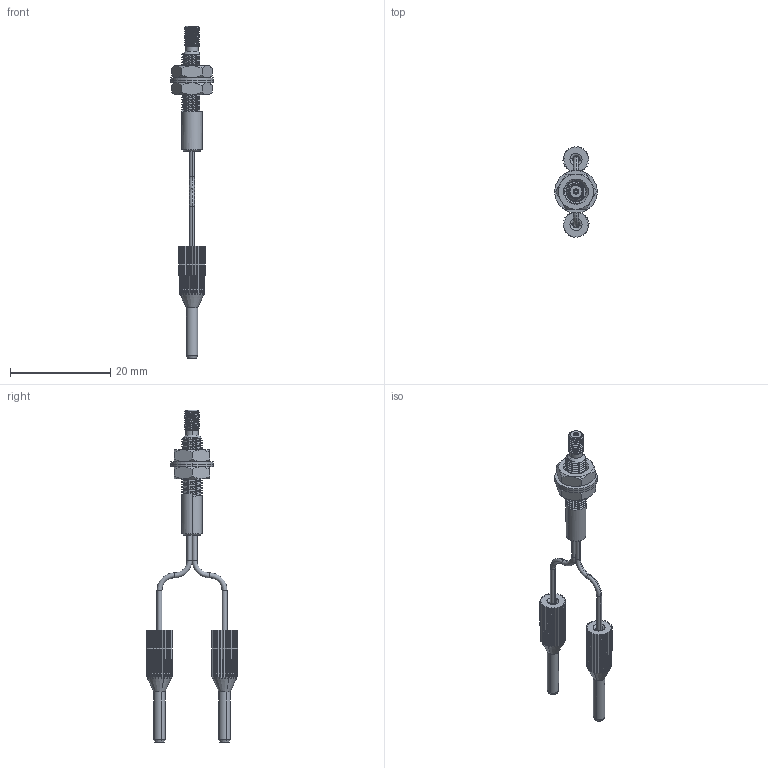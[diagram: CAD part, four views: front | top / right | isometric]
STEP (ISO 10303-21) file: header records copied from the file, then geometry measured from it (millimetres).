
FILE_DESCRIPTION (( 'STEP AP214' ), '1' );
FILE_NAME ('DM-43G.STEP', '2025-09-26T07:41:44', ( 'Windows User' ), ( 'P R C' ), 'SwSTEP 2.0', 'SolidWorks 2023', '' );
FILE_SCHEMA (( 'AUTOMOTIVE_DESIGN' ));
Length unit declared in the file: millimetre
Products named in the file (8): SDxxxxx-DM-43G壳体; SD1200029-齿锁垫片8.5×5×0.5; SD2008373-支座（1.3光纤）; 0.265×8+0.5光纤线; 1.3光纤线; SD2008372-密封压盖（1.3光纤）; DM-43G; SD1300029-螺母4×0.7-SW7×2.4  SW7
Assembly tree (12 placements, depth 2):
  DM-43G
    SDxxxxx-DM-43G壳体
    0.265×8+0.5光纤线
    1.3光纤线  x2
    SD1200029-齿锁垫片8.5×5×0.5  x2
    SD1300029-螺母4×0.7-SW7×2.4  SW7  x2
    SD2008372-密封压盖（1.3光纤）  x2
    SD2008373-支座（1.3光纤）  x2
Bounding box: 8.5 x 18.17 x 66.25 mm (x, y, z)
Volume: 785.1 mm3; surface area: 2323.7 mm2
Topology: 21 solids, 21 shells, 946 faces, 2601 edges, 1697 vertices
Faces by surface type: cylinder 366, plane 276, bspline 171, cone 117, torus 16
Entity records: 70017 total; most frequent: CARTESIAN_POINT 56828, ORIENTED_EDGE 3120, DIRECTION 2164, EDGE_CURVE 1560, VERTEX_POINT 1020, AXIS2_PLACEMENT_3D 796, EDGE_LOOP 582, FACE_OUTER_BOUND 572
